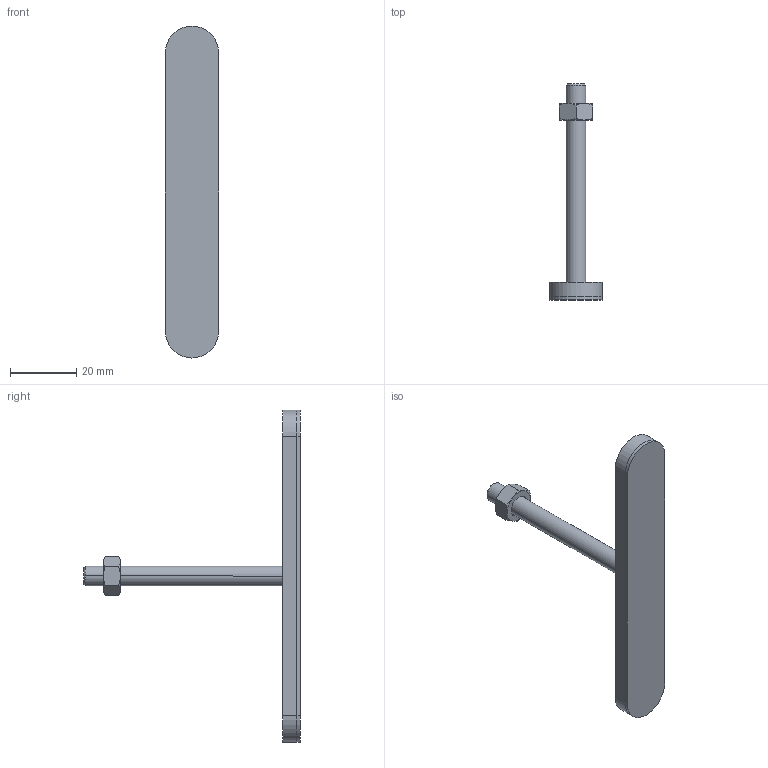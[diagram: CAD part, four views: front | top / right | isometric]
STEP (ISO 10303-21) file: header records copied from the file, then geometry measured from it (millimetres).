
FILE_DESCRIPTION (( 'STEP AP203' ), '1' );
FILE_NAME ('PF-M6 - 66x100.STEP', '2015-07-21T12:19:31', ( 'Ricardo' ), ( '' ), 'SwSTEP 2.0', 'SolidWorks 2014', '' );
FILE_SCHEMA (( 'CONFIG_CONTROL_DESIGN' ));
Length unit declared in the file: millimetre
Products named in the file (5): 12.50019; PF-M6 - 66x100; 20.20021; 11.50001; 20.20059
Assembly tree (4 placements, depth 2):
  PF-M6 - 66x100
    20.20059
    20.20021
    12.50019
    11.50001
Bounding box: 16 x 65.25 x 100 mm (x, y, z)
Volume: 10087 mm3; surface area: 9096.2 mm2
Topology: 4 solids, 4 shells, 63 faces, 144 edges, 90 vertices
Faces by surface type: plane 31, cone 18, cylinder 14
Entity records: 2363 total; most frequent: CARTESIAN_POINT 424, DIRECTION 306, ORIENTED_EDGE 288, EDGE_CURVE 144, AXIS2_PLACEMENT_3D 116, VERTEX_POINT 90, LINE 74, VECTOR 74
